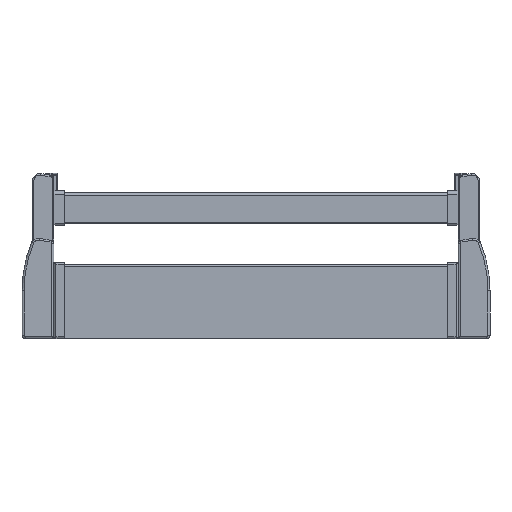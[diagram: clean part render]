
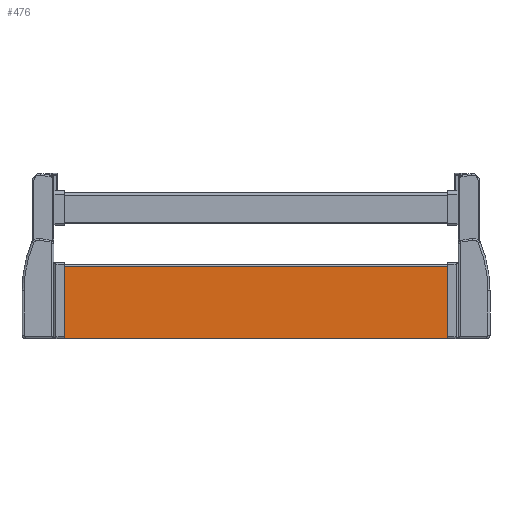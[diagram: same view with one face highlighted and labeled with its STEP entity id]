
A CAD part, top view. The second image highlights one B-rep face of the part: STEP entity #476.
In plain terms, the highlighted planar face has unit normal (0, 0, 1).
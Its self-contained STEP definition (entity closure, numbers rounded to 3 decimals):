
#397 = EDGE_LOOP ( 'NONE', ( #399, #401, #402, #405 ) ) ;
#399 = ORIENTED_EDGE ( 'NONE', *, *, #472, .F. ) ;
#401 = ORIENTED_EDGE ( 'NONE', *, *, #4970, .T. ) ;
#402 = ORIENTED_EDGE ( 'NONE', *, *, #403, .T. ) ;
#403 = EDGE_CURVE ( 'NONE', #4975, #404, #1879, .T. ) ;
#404 = VERTEX_POINT ( 'NONE', #1875 ) ;
#405 = ORIENTED_EDGE ( 'NONE', *, *, #406, .F. ) ;
#406 = EDGE_CURVE ( 'NONE', #473, #404, #1874, .T. ) ;
#472 = EDGE_CURVE ( 'NONE', #4971, #473, #1960, .T. ) ;
#473 = VERTEX_POINT ( 'NONE', #1956 ) ;
#476 = ADVANCED_FACE ( 'NONE', ( #1950 ), #2011, .F. ) ;
#1871 = DIRECTION ( 'NONE',  ( 0., 1., 0. ) ) ;
#1872 = VECTOR ( 'NONE', #1871, 1000. ) ;
#1873 = CARTESIAN_POINT ( 'NONE',  ( -185.8, -92.5, 1.4 ) ) ;
#1874 = LINE ( 'NONE', #1873, #1872 ) ;
#1875 = CARTESIAN_POINT ( 'NONE',  ( -185.8, -23., 1.4 ) ) ;
#1876 = DIRECTION ( 'NONE',  ( -1., 0., 0. ) ) ;
#1877 = VECTOR ( 'NONE', #1876, 1000. ) ;
#1878 = CARTESIAN_POINT ( 'NONE',  ( 259.556, -23., 1.4 ) ) ;
#1879 = LINE ( 'NONE', #1878, #1877 ) ;
#1950 = FACE_OUTER_BOUND ( 'NONE', #397, .T. ) ;
#1956 = CARTESIAN_POINT ( 'NONE',  ( -185.8, -92.5, 1.4 ) ) ;
#1957 = DIRECTION ( 'NONE',  ( -1., 0., 0. ) ) ;
#1958 = VECTOR ( 'NONE', #1957, 1000. ) ;
#1959 = CARTESIAN_POINT ( 'NONE',  ( 259.556, -92.5, 1.4 ) ) ;
#1960 = LINE ( 'NONE', #1959, #1958 ) ;
#2007 = DIRECTION ( 'NONE',  ( 0., 1., 0. ) ) ;
#2008 = DIRECTION ( 'NONE',  ( 0., 0., -1. ) ) ;
#2009 = CARTESIAN_POINT ( 'NONE',  ( 259.556, -92.5, 1.4 ) ) ;
#2010 = AXIS2_PLACEMENT_3D ( 'NONE', #2009, #2008, #2007 ) ;
#2011 = PLANE ( 'NONE',  #2010 ) ;
#4221 = CARTESIAN_POINT ( 'NONE',  ( 185.8, -23., 1.4 ) ) ;
#4228 = CARTESIAN_POINT ( 'NONE',  ( 185.8, -92.5, 1.4 ) ) ;
#4229 = DIRECTION ( 'NONE',  ( 0., 1., 0. ) ) ;
#4230 = VECTOR ( 'NONE', #4229, 1000. ) ;
#4231 = CARTESIAN_POINT ( 'NONE',  ( 185.8, -92.5, 1.4 ) ) ;
#4232 = LINE ( 'NONE', #4231, #4230 ) ;
#4970 = EDGE_CURVE ( 'NONE', #4971, #4975, #4232, .T. ) ;
#4971 = VERTEX_POINT ( 'NONE', #4228 ) ;
#4975 = VERTEX_POINT ( 'NONE', #4221 ) ;
